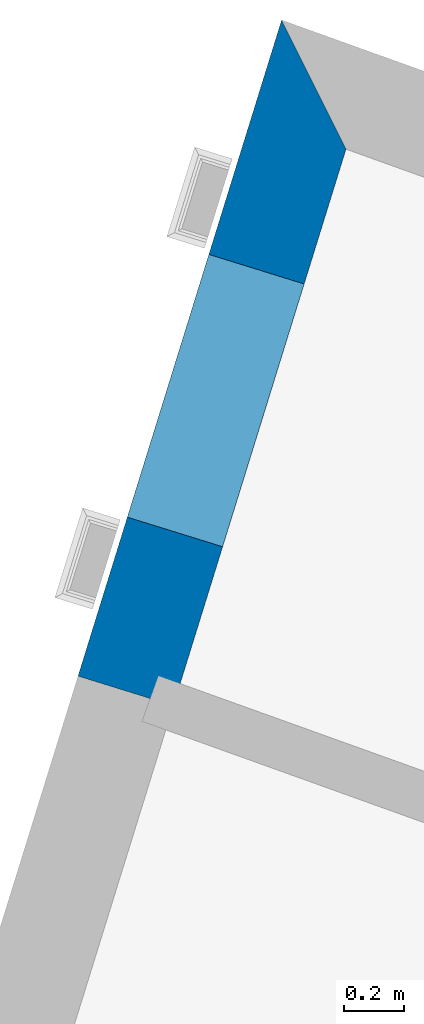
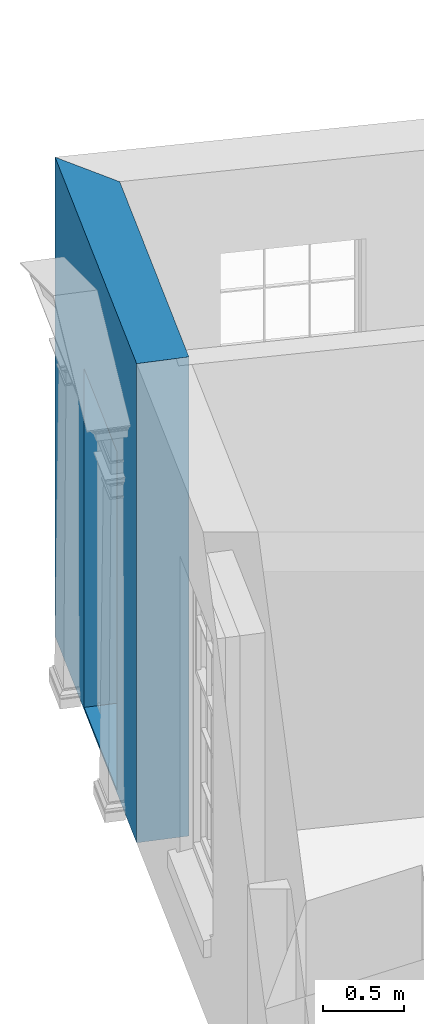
# One storey, part 5 of 6: 1 wall, 1 opening.
"""IFC4 building model written with IfcOpenShell, lengths in metres."""

from ifc_helpers import new_model, si_unit, frame, origin_with_axes, place, context, subcontext, project, spatial, polyline, outline, extrude, material, layer, layer_set, layer_usage, type_object, element, save


model = new_model("IFC4")

# Units and contexts
model_context = context("Model", 3, world=origin_with_axes())
body_context = subcontext(model_context, "Body", "Model", "MODEL_VIEW")
ifc_project = project(units=[si_unit("PLANEANGLEUNIT", "RADIAN"), si_unit("MASSUNIT", "GRAM", prefix="KILO"), si_unit("FORCEUNIT", "NEWTON", prefix="KILO"), si_unit("LENGTHUNIT", "METRE"), si_unit("AREAUNIT", "SQUARE_METRE"), si_unit("VOLUMEUNIT", "CUBIC_METRE")], contexts=[model_context, model_context])

# Sites, building, storey
site_1_placement = place(None, origin_with_axes())
site_1 = spatial("IfcSite", under=ifc_project, at=site_1_placement, Name="Tamar")
site_2_placement = place(site_1_placement, origin_with_axes())
site_2 = spatial("IfcSite", under=site_1, at=site_2_placement, Name="Site plot-21", CompositionType="ELEMENT")
building_placement = place(None, origin_with_axes())
building = spatial("IfcBuilding", under=site_2, at=building_placement, Name="Building plot-21", CompositionType="ELEMENT")
storey_placement = place(None, frame((0.0, 0.0, 26.0), z_axis=(0.0, 0.0, 1.0), x_axis=(1.0, 0.0, 0.0)))
storey = spatial("IfcBuildingStorey", under=building, at=storey_placement, Name="plot-21 0", CompositionType="ELEMENT", Elevation=26.0)

# Wall, opening
ifc_material = material(Name="Masonry")
ifc_layer = layer(ifc_material, 0.33, ventilated=False)
ifc_layer_set = layer_set([ifc_layer], Name="exterior_0.08_0.25")
ifc_layer_usage = layer_usage(ifc_layer_set, "AXIS2", "POSITIVE", -0.25)
wall_type = type_object("IfcWallType", Name="exterior_0.08_0.25", PredefinedType="SOLIDWALL", material=ifc_layer_set)
wall_placement = place(storey_placement, frame((254.417043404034, 287.790645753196, 0.0), z_axis=(0.0, 0.0, 1.0), x_axis=(-0.296355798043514, -0.95507760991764, 0.0)))
wall = element("IfcWall", 1, at=wall_placement, inside=storey, type_object=wall_type, material=ifc_layer_usage, Name="exterior", context=body_context, shape_type="SweptSolid", body=[
    extrude(outline(polyline([(0.0836073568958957, 0.0799999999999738), (-0.261272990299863, -0.250000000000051), (2.0111221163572, -0.250000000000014), (2.01112211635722, 0.0799999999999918), (0.0836073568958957, 0.0799999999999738)])), origin_with_axes(), (0.0, 0.0, 1.0), 3.6),
])
opening_placement = place(wall_placement, frame((0.550561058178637, 0.0, 0.0199999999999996)))
element("IfcOpeningElement", 2, at=opening_placement, cuts=wall, Name="My Opening", ObjectType="Opening", context=body_context, shape_type="SweptSolid", body=[
    extrude(outline(polyline([(0.0, -0.269999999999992), (0.909999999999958, -0.270000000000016), (0.909999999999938, 1.09999999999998), (-1.97619698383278e-14, 1.10000000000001), (0.0, -0.269999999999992)])), origin_with_axes(), (0.0, 0.0, 1.0), 2.545),
])

save(model, "model.ifc")
